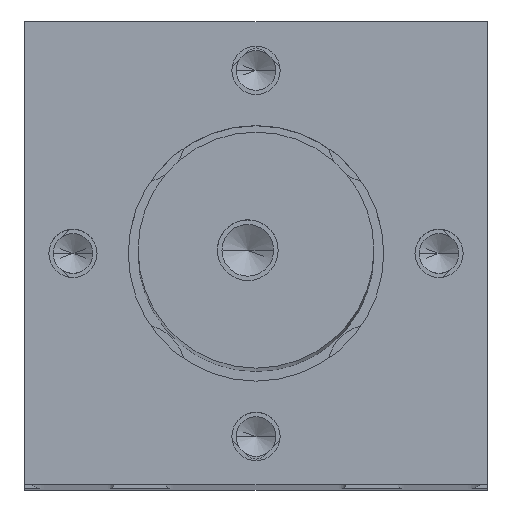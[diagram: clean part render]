
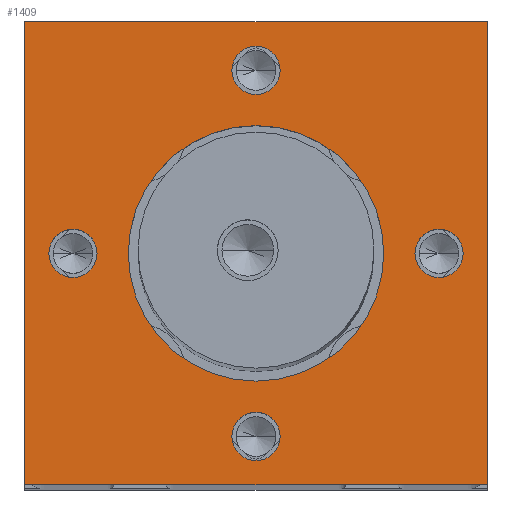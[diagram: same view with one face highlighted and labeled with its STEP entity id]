
A CAD part, top view. The second image highlights one B-rep face of the part: STEP entity #1409.
In plain terms, the highlighted planar face has unit normal (0, 0, 1).
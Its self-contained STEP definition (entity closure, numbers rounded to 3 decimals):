
#8 = VERTEX_POINT ( 'NONE', #1227 ) ;
#15 = VERTEX_POINT ( 'NONE', #1234 ) ;
#16 = VERTEX_POINT ( 'NONE', #1235 ) ;
#22 = VERTEX_POINT ( 'NONE', #1241 ) ;
#33 = VERTEX_POINT ( 'NONE', #1252 ) ;
#43 = VERTEX_POINT ( 'NONE', #1262 ) ;
#443 = EDGE_LOOP ( 'NONE', ( #4306, #4307 ) ) ;
#444 = EDGE_LOOP ( 'NONE', ( #4308, #2818 ) ) ;
#445 = EDGE_LOOP ( 'NONE', ( #4314, #4311 ) ) ;
#447 = EDGE_LOOP ( 'NONE', ( #4310, #4309 ) ) ;
#452 = EDGE_LOOP ( 'NONE', ( #4312, #4313 ) ) ;
#459 = EDGE_LOOP ( 'NONE', ( #2826, #2824, #2811, #2830 ) ) ;
#602 = EDGE_CURVE ( 'NONE', #8, #15, #4631, .T. ) ;
#610 = EDGE_CURVE ( 'NONE', #1215, #1191, #4645, .T. ) ;
#611 = EDGE_CURVE ( 'NONE', #1208, #1215, #4647, .T. ) ;
#612 = EDGE_CURVE ( 'NONE', #1206, #1197, #4649, .T. ) ;
#613 = EDGE_CURVE ( 'NONE', #1204, #1217, #4650, .T. ) ;
#614 = EDGE_CURVE ( 'NONE', #16, #43, #4652, .T. ) ;
#624 = EDGE_CURVE ( 'NONE', #43, #16, #4667, .T. ) ;
#632 = EDGE_CURVE ( 'NONE', #1191, #1205, #4679, .T. ) ;
#633 = EDGE_CURVE ( 'NONE', #1205, #1208, #4681, .T. ) ;
#646 = EDGE_CURVE ( 'NONE', #22, #33, #4700, .T. ) ;
#650 = EDGE_CURVE ( 'NONE', #1197, #1206, #4706, .T. ) ;
#658 = EDGE_CURVE ( 'NONE', #33, #22, #4718, .T. ) ;
#664 = EDGE_CURVE ( 'NONE', #1217, #1204, #4726, .T. ) ;
#671 = EDGE_CURVE ( 'NONE', #15, #8, #4738, .T. ) ;
#689 = CARTESIAN_POINT ( 'NONE',  ( 696.306, 131.132, 0. ) ) ;
#690 = DIRECTION ( 'NONE',  ( 0., 0., 1. ) ) ;
#691 = DIRECTION ( 'NONE',  ( 1., 0., 0. ) ) ;
#704 = CARTESIAN_POINT ( 'NONE',  ( 666.156, 131.132, 0. ) ) ;
#705 = DIRECTION ( 'NONE',  ( 0., 0., 1. ) ) ;
#706 = DIRECTION ( 'NONE',  ( 1., 0., 0. ) ) ;
#721 = CARTESIAN_POINT ( 'NONE',  ( 666.156, 161.281, 0. ) ) ;
#722 = DIRECTION ( 'NONE',  ( 0., 0., 1. ) ) ;
#723 = DIRECTION ( 'NONE',  ( 1., 0., 0. ) ) ;
#874 = CARTESIAN_POINT ( 'NONE',  ( 666.156, 161.281, 0. ) ) ;
#875 = DIRECTION ( 'NONE',  ( 0., 0., 1. ) ) ;
#876 = DIRECTION ( 'NONE',  ( 1., 0., 0. ) ) ;
#891 = CARTESIAN_POINT ( 'NONE',  ( 704.256, 169.232, 0. ) ) ;
#892 = DIRECTION ( 'NONE',  ( 0., 1., 0. ) ) ;
#893 = CARTESIAN_POINT ( 'NONE',  ( 628.056, 93.032, 0. ) ) ;
#894 = DIRECTION ( 'NONE',  ( 1., 0., 0. ) ) ;
#895 = CARTESIAN_POINT ( 'NONE',  ( 636.007, 131.132, 0. ) ) ;
#896 = DIRECTION ( 'NONE',  ( 0., 0., 1. ) ) ;
#897 = DIRECTION ( 'NONE',  ( 1., 0., 0. ) ) ;
#898 = CARTESIAN_POINT ( 'NONE',  ( 666.156, 131.132, 0. ) ) ;
#899 = DIRECTION ( 'NONE',  ( 0., 0., 1. ) ) ;
#900 = DIRECTION ( 'NONE',  ( 1., 0., 0. ) ) ;
#901 = CARTESIAN_POINT ( 'NONE',  ( 666.156, 100.982, 0. ) ) ;
#902 = DIRECTION ( 'NONE',  ( 0., 0., 1. ) ) ;
#903 = DIRECTION ( 'NONE',  ( 1., 0., 0. ) ) ;
#926 = CARTESIAN_POINT ( 'NONE',  ( 666.156, 100.982, 0. ) ) ;
#927 = DIRECTION ( 'NONE',  ( 0., 0., 1. ) ) ;
#928 = DIRECTION ( 'NONE',  ( 1., 0., 0. ) ) ;
#945 = CARTESIAN_POINT ( 'NONE',  ( 628.056, 169.232, 0. ) ) ;
#946 = DIRECTION ( 'NONE',  ( -1., 0., 0. ) ) ;
#947 = CARTESIAN_POINT ( 'NONE',  ( 628.056, 169.232, 0. ) ) ;
#948 = DIRECTION ( 'NONE',  ( 0., -1., 0. ) ) ;
#981 = CARTESIAN_POINT ( 'NONE',  ( 696.306, 131.132, 0. ) ) ;
#982 = DIRECTION ( 'NONE',  ( 0., 0., 1. ) ) ;
#983 = DIRECTION ( 'NONE',  ( 1., 0., 0. ) ) ;
#991 = CARTESIAN_POINT ( 'NONE',  ( 636.007, 131.132, 0. ) ) ;
#992 = DIRECTION ( 'NONE',  ( 0., 0., 1. ) ) ;
#993 = DIRECTION ( 'NONE',  ( 1., 0., 0. ) ) ;
#1191 = VERTEX_POINT ( 'NONE', #5499 ) ;
#1197 = VERTEX_POINT ( 'NONE', #5505 ) ;
#1204 = VERTEX_POINT ( 'NONE', #5512 ) ;
#1205 = VERTEX_POINT ( 'NONE', #5513 ) ;
#1206 = VERTEX_POINT ( 'NONE', #5514 ) ;
#1208 = VERTEX_POINT ( 'NONE', #5516 ) ;
#1215 = VERTEX_POINT ( 'NONE', #5523 ) ;
#1217 = VERTEX_POINT ( 'NONE', #5525 ) ;
#1227 = CARTESIAN_POINT ( 'NONE',  ( 670.125, 161.281, 0. ) ) ;
#1234 = CARTESIAN_POINT ( 'NONE',  ( 662.188, 161.281, 0. ) ) ;
#1235 = CARTESIAN_POINT ( 'NONE',  ( 670.125, 100.982, 0. ) ) ;
#1241 = CARTESIAN_POINT ( 'NONE',  ( 700.275, 131.132, 0. ) ) ;
#1252 = CARTESIAN_POINT ( 'NONE',  ( 692.337, 131.132, 0. ) ) ;
#1262 = CARTESIAN_POINT ( 'NONE',  ( 662.188, 100.982, 0. ) ) ;
#1409 = ADVANCED_FACE ( 'NONE', ( #4903, #4904, #4905, #4906, #4907, #4908 ), #5812, .T. ) ;
#2352 = AXIS2_PLACEMENT_3D ( 'NONE', #874, #875, #876 ) ;
#2353 = AXIS2_PLACEMENT_3D ( 'NONE', #895, #896, #897 ) ;
#2354 = AXIS2_PLACEMENT_3D ( 'NONE', #898, #899, #900 ) ;
#2355 = AXIS2_PLACEMENT_3D ( 'NONE', #901, #902, #903 ) ;
#2360 = AXIS2_PLACEMENT_3D ( 'NONE', #926, #927, #928 ) ;
#2371 = AXIS2_PLACEMENT_3D ( 'NONE', #981, #982, #983 ) ;
#2373 = AXIS2_PLACEMENT_3D ( 'NONE', #991, #992, #993 ) ;
#2377 = AXIS2_PLACEMENT_3D ( 'NONE', #689, #690, #691 ) ;
#2380 = AXIS2_PLACEMENT_3D ( 'NONE', #704, #705, #706 ) ;
#2383 = AXIS2_PLACEMENT_3D ( 'NONE', #721, #722, #723 ) ;
#2467 = AXIS2_PLACEMENT_3D ( 'NONE', #5813, #5814, #5815 ) ;
#2811 = ORIENTED_EDGE ( 'NONE', *, *, #610, .T. ) ;
#2818 = ORIENTED_EDGE ( 'NONE', *, *, #664, .F. ) ;
#2824 = ORIENTED_EDGE ( 'NONE', *, *, #611, .T. ) ;
#2826 = ORIENTED_EDGE ( 'NONE', *, *, #633, .T. ) ;
#2830 = ORIENTED_EDGE ( 'NONE', *, *, #632, .T. ) ;
#4306 = ORIENTED_EDGE ( 'NONE', *, *, #612, .F. ) ;
#4307 = ORIENTED_EDGE ( 'NONE', *, *, #650, .F. ) ;
#4308 = ORIENTED_EDGE ( 'NONE', *, *, #613, .F. ) ;
#4309 = ORIENTED_EDGE ( 'NONE', *, *, #658, .F. ) ;
#4310 = ORIENTED_EDGE ( 'NONE', *, *, #646, .F. ) ;
#4311 = ORIENTED_EDGE ( 'NONE', *, *, #624, .F. ) ;
#4312 = ORIENTED_EDGE ( 'NONE', *, *, #602, .F. ) ;
#4313 = ORIENTED_EDGE ( 'NONE', *, *, #671, .F. ) ;
#4314 = ORIENTED_EDGE ( 'NONE', *, *, #614, .F. ) ;
#4631 = CIRCLE ( 'NONE', #2352, 3.969 ) ;
#4645 = LINE ( 'NONE', #891, #4646 ) ;
#4646 = VECTOR ( 'NONE', #892, 1000. ) ;
#4647 = LINE ( 'NONE', #893, #4648 ) ;
#4648 = VECTOR ( 'NONE', #894, 1000. ) ;
#4649 = CIRCLE ( 'NONE', #2353, 3.969 ) ;
#4650 = CIRCLE ( 'NONE', #2354, 21.041 ) ;
#4652 = CIRCLE ( 'NONE', #2355, 3.969 ) ;
#4667 = CIRCLE ( 'NONE', #2360, 3.969 ) ;
#4679 = LINE ( 'NONE', #945, #4680 ) ;
#4680 = VECTOR ( 'NONE', #946, 1000. ) ;
#4681 = LINE ( 'NONE', #947, #4682 ) ;
#4682 = VECTOR ( 'NONE', #948, 1000. ) ;
#4700 = CIRCLE ( 'NONE', #2371, 3.969 ) ;
#4706 = CIRCLE ( 'NONE', #2373, 3.969 ) ;
#4718 = CIRCLE ( 'NONE', #2377, 3.969 ) ;
#4726 = CIRCLE ( 'NONE', #2380, 21.041 ) ;
#4738 = CIRCLE ( 'NONE', #2383, 3.969 ) ;
#4903 = FACE_BOUND ( 'NONE', #452, .T. ) ;
#4904 = FACE_BOUND ( 'NONE', #445, .T. ) ;
#4905 = FACE_BOUND ( 'NONE', #447, .T. ) ;
#4906 = FACE_BOUND ( 'NONE', #443, .T. ) ;
#4907 = FACE_BOUND ( 'NONE', #444, .T. ) ;
#4908 = FACE_OUTER_BOUND ( 'NONE', #459, .T. ) ;
#5499 = CARTESIAN_POINT ( 'NONE',  ( 704.256, 169.232, 0. ) ) ;
#5505 = CARTESIAN_POINT ( 'NONE',  ( 632.038, 131.132, 0. ) ) ;
#5512 = CARTESIAN_POINT ( 'NONE',  ( 687.198, 131.132, 0. ) ) ;
#5513 = CARTESIAN_POINT ( 'NONE',  ( 628.056, 169.232, 0. ) ) ;
#5514 = CARTESIAN_POINT ( 'NONE',  ( 639.975, 131.132, 0. ) ) ;
#5516 = CARTESIAN_POINT ( 'NONE',  ( 628.056, 93.032, 0. ) ) ;
#5523 = CARTESIAN_POINT ( 'NONE',  ( 704.256, 93.032, 0. ) ) ;
#5525 = CARTESIAN_POINT ( 'NONE',  ( 645.115, 131.132, 0. ) ) ;
#5812 = PLANE ( 'NONE',  #2467 ) ;
#5813 = CARTESIAN_POINT ( 'NONE',  ( 628.056, 93.032, 0. ) ) ;
#5814 = DIRECTION ( 'NONE',  ( 0., 0., 1. ) ) ;
#5815 = DIRECTION ( 'NONE',  ( 1., 0., 0. ) ) ;
